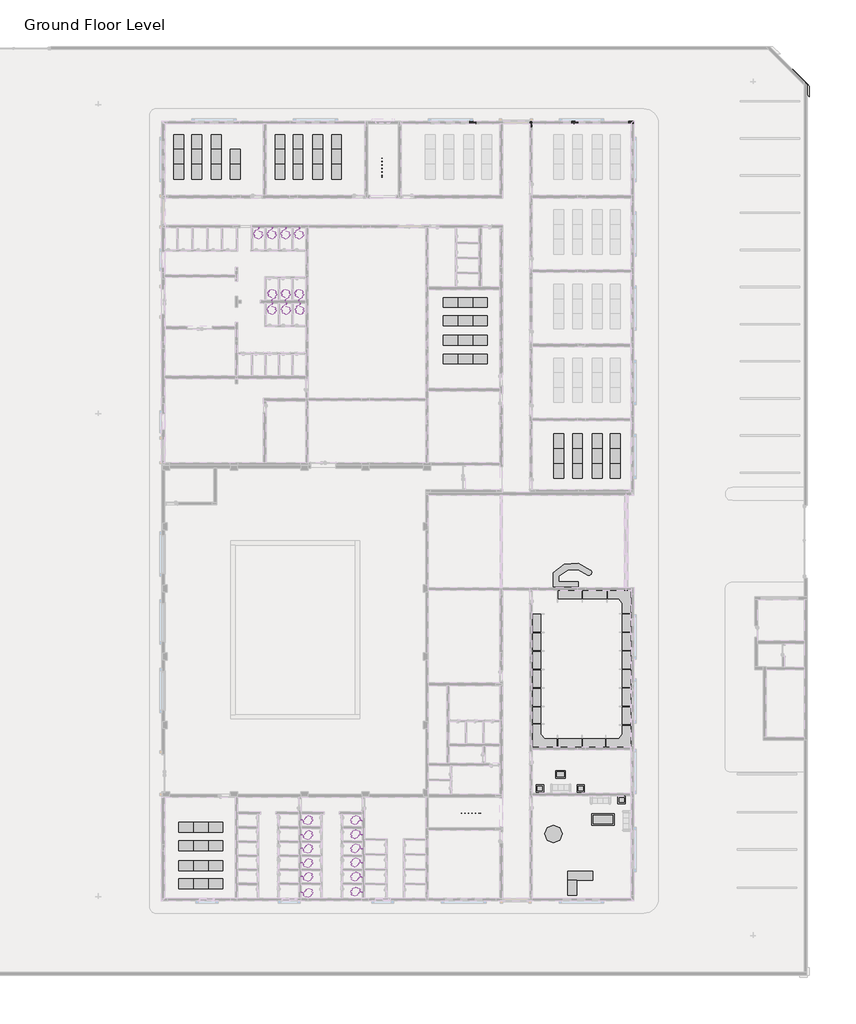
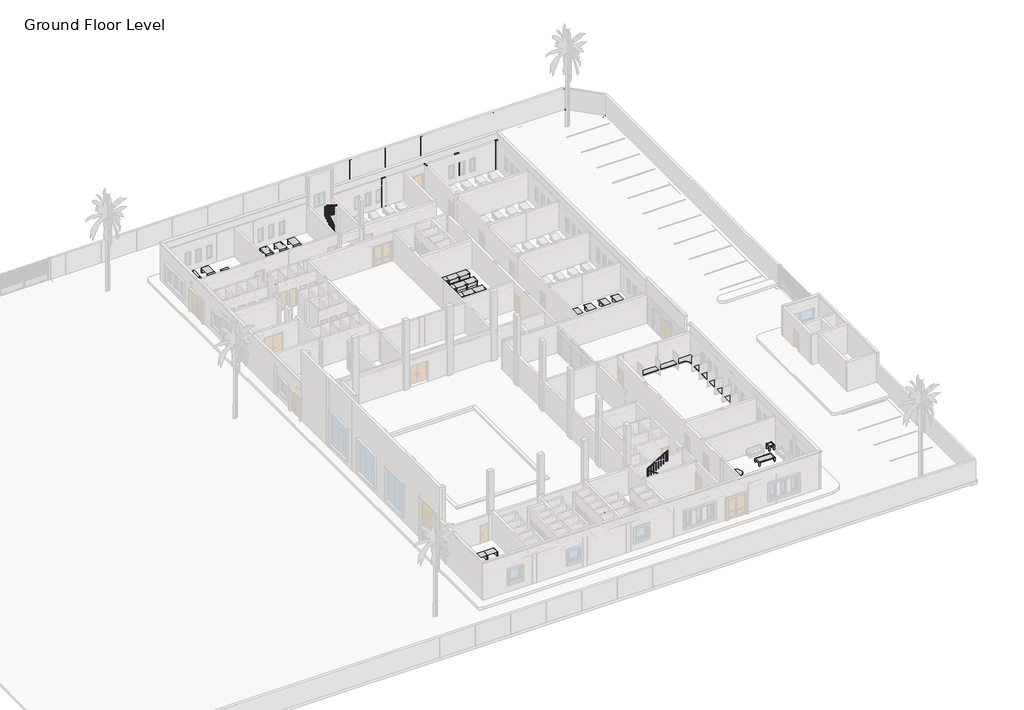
# One storey, part 21 of 23: 68 furniture elements, 22 flow terminals, 14 columns, 8 beams, 4 slabs, 2 railings, 1 footing.
"""IFC4 building model written with IfcOpenShell, lengths in millimetres."""

from ifc_helpers import new_model, si_unit, frame, origin, place, context, project, spatial, polyline, outline, extrude, faceted_brep, transform, mapped, element, save
from components import concrete_rectangular_c_9a02abf1, shower_shower_096738a5, bar_cabinet_2643_bar_cabinet_2643_6f9020b6, desk_120cm_1200x800_96458f44, furniture_1_furniture_1_e9a6e4ac, m_desk_l_shape_2000_x_2000_cdca6658, table_coffee_2_600_x_600_x_600mm_3ebcfe62, table_coffee_2_800_x_700_x_600mm_039c7049, table_coffee_2_900_x_1800_x_450mm_279d784c, table_dining_w_chairs_1_900mm_diameter_3745d905, railing_1100mm_bf5e9941, railing_1100mm_0a1800b7

model = new_model("IFC4")

# Units and contexts
model_context = context("Model", 3, world=origin())
ifc_project = project(units=[si_unit("LENGTHUNIT", "METRE", prefix="MILLI")], contexts=[model_context])

# Site, building, storey
site = spatial("IfcSite", under=ifc_project)
building = spatial("IfcBuilding", under=site)
storey = spatial("IfcBuildingStorey", under=building, Name="Ground Floor Level", Elevation=900.0)

# Beams
placement = place(None, origin())
element("IfcBeam", 1, ObjectType="Concrete - Rectangular Beam : GB3", at=placement, inside=storey, context=model_context, shape_type="SweptSolid", body=[
    extrude(outline(polyline([(7852.7672395, 21445.2153534), (7852.7672395, 21645.2153534), (11052.7672395, 21645.2153534), (11052.7672395, 21445.2153534), (7852.7672395, 21445.2153534)])), frame((0.0, 0.0, 300.0), z_axis=(0.0, 0.0, 1.0), x_axis=(1.0, 0.0, 0.0)), (0.0, 0.0, 1.0), 300.0),
])
element("IfcBeam", 2, ObjectType="Concrete - Rectangular Beam : GB3", at=placement, inside=storey, context=model_context, shape_type="SweptSolid", body=[
    extrude(outline(polyline([(11552.7672395, 21445.2153534), (11552.7672395, 21645.2153534), (15652.7672395, 21645.2153534), (15652.7672395, 21445.2153534), (11552.7672395, 21445.2153534)])), frame((0.0, 0.0, 300.0), z_axis=(0.0, 0.0, 1.0), x_axis=(1.0, 0.0, 0.0)), (0.0, 0.0, 1.0), 300.0),
])
element("IfcBeam", 3, ObjectType="Concrete - Rectangular Beam : GB4", at=placement, inside=storey, context=model_context, shape_type="SweptSolid", body=[
    extrude(outline(polyline([(2802.7672395, 21645.2153534), (2802.7672395, 21445.2153534), (-2747.2327605, 21445.2153534), (-2747.2327605, 21645.2153534), (2802.7672395, 21645.2153534)])), frame((0.0, 0.0, 300.0), z_axis=(0.0, 0.0, 1.0), x_axis=(1.0, 0.0, 0.0)), (0.0, 0.0, 1.0), 300.0),
])
element("IfcBeam", 4, ObjectType="Concrete - Rectangular Beam : GB4", at=placement, inside=storey, context=model_context, shape_type="SweptSolid", body=[
    extrude(outline(polyline([(16052.7672395, 15645.2153534), (15852.7672395, 15645.2153534), (15852.7672395, 21445.2153534), (16052.7672395, 21445.2153534), (16052.7672395, 15645.2153534)])), frame((0.0, 0.0, 300.0), z_axis=(0.0, 0.0, 1.0), x_axis=(1.0, 0.0, 0.0)), (0.0, 0.0, 1.0), 300.0),
])
element("IfcBeam", 5, ObjectType="Concrete - Rectangular Beam : GB4", at=placement, inside=storey, context=model_context, shape_type="SweptSolid", body=[
    extrude(outline(polyline([(11542.223802, 15645.2153534), (11342.223802, 15645.2153534), (11342.223802, 21445.2153534), (11542.223802, 21445.2153534), (11542.223802, 15645.2153534)])), frame((0.0, 0.0, 300.0), z_axis=(0.0, 0.0, 1.0), x_axis=(1.0, 0.0, 0.0)), (0.0, 0.0, 1.0), 300.0),
])
element("IfcBeam", 6, ObjectType="Concrete - Rectangular Beam : GB4", at=placement, inside=storey, context=model_context, shape_type="SweptSolid", body=[
    extrude(outline(polyline([(7652.7672395, 21145.2153534), (7852.7672395, 21145.2153534), (7852.7672395, 15645.2153534), (7652.7672395, 15645.2153534), (7652.7672395, 21145.2153534)])), frame((0.0, 0.0, 300.0), z_axis=(0.0, 0.0, 1.0), x_axis=(1.0, 0.0, 0.0)), (0.0, 0.0, 1.0), 300.0),
])
element("IfcBeam", 7, ObjectType="Concrete - Rectangular Beam : GB4", at=placement, inside=storey, context=model_context, shape_type="SweptSolid", body=[
    extrude(outline(polyline([(5252.7672395, 21445.2153534), (5452.7672395, 21445.2153534), (5452.7672395, 15645.2153534), (5252.7672395, 15645.2153534), (5252.7672395, 21445.2153534)])), frame((0.0, 0.0, 300.0), z_axis=(0.0, 0.0, 1.0), x_axis=(1.0, 0.0, 0.0)), (0.0, 0.0, 1.0), 300.0),
])
element("IfcBeam", 8, ObjectType="Concrete - Rectangular Beam : GB5", at=placement, inside=storey, context=model_context, shape_type="Brep", body=[
    faceted_brep([(3302.7672395, 21445.2153534, 300.0), (5252.7672395, 21445.2153534, 300.0), (5452.7672395, 21445.2153534, 300.0), (7652.7672395, 21445.2153534, 300.0), (7652.7672395, 21445.2153534, 600.0), (5452.7672395, 21445.2153534, 600.0), (5252.7672395, 21445.2153534, 600.0), (3302.7672395, 21445.2153534, 600.0), (3302.7672395, 21645.2153534, 300.0), (7652.7672395, 21645.2153534, 300.0), (3302.7672395, 21645.2153534, 600.0), (7652.7672395, 21645.2153534, 600.0)], [[[0, 1, 2, 3, 4, 5, 6, 7]], [[0, 8, 9, 3, 2, 1]], [[9, 8, 10, 11]], [[8, 0, 7, 10]], [[3, 9, 11, 4]], [[7, 6, 5, 4, 11, 10]]]),
])

# Columns
element("IfcColumn", 9, ObjectType="Concrete Rectangular : C", at=placement, inside=storey, context=model_context, shape_type="SweptSolid", body=[
    extrude(outline(polyline([(2652.6555015, 27650.6767253), (2852.6555015, 27650.6767253), (2852.6555015, 27450.6767253), (2652.6555015, 27450.6767253), (2652.6555015, 27650.6767253)])), frame((0.0, 0.0, 600.0), z_axis=(0.0, 0.0, 1.0), x_axis=(1.0, 0.0, 0.0)), (0.0, 0.0, 1.0), 2450.0),
])
element("IfcColumn", 10, ObjectType="Concrete Rectangular : C", at=placement, inside=storey, context=model_context, shape_type="SweptSolid", body=[
    extrude(outline(polyline([(6652.6555015, 27650.6767253), (6852.6555015, 27650.6767253), (6852.6555015, 27450.6767253), (6652.6555015, 27450.6767253), (6652.6555015, 27650.6767253)])), frame((0.0, 0.0, 600.0), z_axis=(0.0, 0.0, 1.0), x_axis=(1.0, 0.0, 0.0)), (0.0, 0.0, 1.0), 2450.0),
])
element("IfcColumn", 11, ObjectType="Concrete Rectangular : C", at=placement, inside=storey, context=model_context, shape_type="SweptSolid", body=[
    extrude(outline(polyline([(10652.6555015, 27650.6767253), (10852.6555015, 27650.6767253), (10852.6555015, 27450.6767253), (10652.6555015, 27450.6767253), (10652.6555015, 27650.6767253)])), frame((0.0, 0.0, 600.0), z_axis=(0.0, 0.0, 1.0), x_axis=(1.0, 0.0, 0.0)), (0.0, 0.0, 1.0), 2450.0),
])
element("IfcColumn", 12, ObjectType="Concrete Rectangular : C", at=placement, inside=storey, context=model_context, shape_type="SweptSolid", body=[
    extrude(outline(polyline([(14652.6555015, 27650.6767253), (14852.6555015, 27650.6767253), (14852.6555015, 27450.6767253), (14652.6555015, 27450.6767253), (14652.6555015, 27650.6767253)])), frame((0.0, 0.0, 600.0), z_axis=(0.0, 0.0, 1.0), x_axis=(1.0, 0.0, 0.0)), (0.0, 0.0, 1.0), 2450.0),
])
element("IfcColumn", 13, ObjectType="Concrete Rectangular : C", at=placement, inside=storey, context=model_context, shape_type="SweptSolid", body=[
    extrude(outline(polyline([(18652.6555015, 27650.6767253), (18852.6555015, 27650.6767253), (18852.6555015, 27450.6767253), (18652.6555015, 27450.6767253), (18652.6555015, 27650.6767253)])), frame((0.0, 0.0, 600.0), z_axis=(0.0, 0.0, 1.0), x_axis=(1.0, 0.0, 0.0)), (0.0, 0.0, 1.0), 2450.0),
])
element("IfcColumn", 14, ObjectType="Concrete Rectangular : C", at=placement, inside=storey, context=model_context, shape_type="SweptSolid", body=[
    extrude(outline(polyline([(22652.6555015, 27650.6767253), (22852.6555015, 27650.6767253), (22852.6555015, 27450.6767253), (22652.6555015, 27450.6767253), (22652.6555015, 27650.6767253)])), frame((0.0, 0.0, 600.0), z_axis=(0.0, 0.0, 1.0), x_axis=(1.0, 0.0, 0.0)), (0.0, 0.0, 1.0), 2450.0),
])
element("IfcColumn", 15, ObjectType="Concrete Rectangular : C", at=placement, inside=storey, context=model_context, shape_type="SweptSolid", body=[
    extrude(outline(polyline([(26652.6555015, 27650.6767253), (26852.6555015, 27650.6767253), (26852.6555015, 27450.6767253), (26652.6555015, 27450.6767253), (26652.6555015, 27650.6767253)])), frame((0.0, 0.0, 600.0), z_axis=(0.0, 0.0, 1.0), x_axis=(1.0, 0.0, 0.0)), (0.0, 0.0, 1.0), 2450.0),
])
concrete_rectangular_c_shape = concrete_rectangular_c_9a02abf1(model_context)
element("IfcColumn", 16, ObjectType="Concrete Rectangular : C", at=placement, inside=storey, context=model_context, shape_type="MappedRepresentation", body=[
    mapped(concrete_rectangular_c_shape, transform((29943.9253387, 24439.4068881, 0.0), x_axis=(-1.0, 0.0, 0.0), y_axis=(0.0, -1.0, 0.0), z_axis=(0.0, 0.0, 1.0))),
])
element("IfcColumn", 17, ObjectType="Concrete Rectangular : C", at=placement, inside=storey, context=model_context, shape_type="MappedRepresentation", body=[
    mapped(concrete_rectangular_c_shape, transform((29943.9253387, 20439.4068881, 0.0), x_axis=(-1.0, 0.0, 0.0), y_axis=(0.0, -1.0, 0.0), z_axis=(0.0, 0.0, 1.0))),
])
element("IfcColumn", 18, ObjectType="Concrete Rectangular : C", at=placement, inside=storey, context=model_context, shape_type="MappedRepresentation", body=[
    mapped(concrete_rectangular_c_shape, transform((29943.9253387, 16439.4068881, 0.0), x_axis=(-1.0, 0.0, 0.0), y_axis=(0.0, -1.0, 0.0), z_axis=(0.0, 0.0, 1.0))),
])
element("IfcColumn", 19, ObjectType="Concrete Rectangular : C1", at=placement, inside=storey, context=model_context, shape_type="Brep", body=[
    faceted_brep([(15652.7672395, 21645.2153534, -300.0), (16052.7672395, 21645.2153534, -300.0), (16052.7672395, 21445.2153534, -300.0), (15652.7672395, 21445.2153534, -300.0), (15652.7672395, 21645.2153534, 4400.0), (16052.7672395, 21645.2153534, 4400.0), (16052.7672395, 21645.2153534, 900.0), (15652.7672395, 21645.2153534, 900.0), (16052.7672395, 21445.2153534, 4400.0), (16052.7672395, 21445.2153534, 900.0), (15652.7672395, 21445.2153534, 4400.0), (15652.7672395, 21445.2153534, 1000.0), (15652.7672395, 21445.2153534, 900.0)], [[[0, 1, 2, 3]], [[4, 5, 6, 1, 0, 7]], [[5, 8, 9, 2, 1, 6]], [[8, 10, 11, 12, 3, 2, 9]], [[10, 4, 7, 0, 3, 12, 11]], [[4, 10, 8, 5]]]),
])
element("IfcColumn", 20, ObjectType="Concrete Rectangular : C2", at=placement, inside=storey, context=model_context, shape_type="Brep", body=[
    faceted_brep([(3302.7672395, 21445.2153534, -300.0), (2802.7672395, 21445.2153534, -300.0), (2802.7672395, 21645.2153534, -300.0), (3302.7672395, 21645.2153534, -300.0), (3302.7672395, 21445.2153534, 4400.0), (2802.7672395, 21445.2153534, 4400.0), (2802.7672395, 21445.2153534, 1000.0), (2802.7672395, 21445.2153534, 900.0), (3302.7672395, 21445.2153534, 900.0), (3302.7672395, 21445.2153534, 1000.0), (2802.7672395, 21645.2153534, 4400.0), (2802.7672395, 21645.2153534, 900.0), (3302.7672395, 21645.2153534, 4400.0), (3302.7672395, 21645.2153534, 900.0)], [[[0, 1, 2, 3]], [[4, 5, 6, 7, 1, 0, 8, 9]], [[5, 10, 11, 2, 1, 7, 6]], [[10, 12, 13, 3, 2, 11]], [[12, 4, 9, 8, 0, 3, 13]], [[4, 12, 10, 5]]]),
])
element("IfcColumn", 21, ObjectType="Concrete Rectangular : C2", at=placement, inside=storey, context=model_context, shape_type="Brep", body=[
    faceted_brep([(7852.7672395, 21645.2153534, -300.0), (7852.7672395, 21145.2153534, -300.0), (7652.7672395, 21145.2153534, -300.0), (7652.7672395, 21645.2153534, -300.0), (7852.7672395, 21645.2153534, 4400.0), (7852.7672395, 21435.2153534, 4400.0), (7852.7672395, 21145.2153534, 4400.0), (7852.7672395, 21145.2153534, 1000.0), (7852.7672395, 21145.2153534, 900.0), (7852.7672395, 21645.2153534, 900.0), (7652.7672395, 21145.2153534, 4400.0), (7652.7672395, 21145.2153534, 1000.0), (7652.7672395, 21145.2153534, 900.0), (7652.7672395, 21435.2153534, 4400.0), (7652.7672395, 21645.2153534, 4400.0), (7652.7672395, 21645.2153534, 900.0)], [[[0, 1, 2, 3]], [[4, 5, 6, 7, 8, 1, 0, 9]], [[6, 10, 11, 12, 2, 1, 8, 7]], [[10, 13, 14, 15, 3, 2, 12, 11]], [[14, 4, 9, 0, 3, 15]], [[4, 14, 13, 10, 6, 5]]]),
])
element("IfcColumn", 22, ObjectType="Concrete Rectangular : C2", at=placement, inside=storey, context=model_context, shape_type="Brep", body=[
    faceted_brep([(11052.7672395, 21645.2153534, -300.0), (11552.7672395, 21645.2153534, -300.0), (11552.7672395, 21445.2153534, -300.0), (11052.7672395, 21445.2153534, -300.0), (11052.7672395, 21645.2153534, 4400.0), (11552.7672395, 21645.2153534, 4400.0), (11552.7672395, 21645.2153534, 900.0), (11052.7672395, 21645.2153534, 900.0), (11552.7672395, 21445.2153534, 4400.0), (11552.7672395, 21445.2153534, 1000.0), (11552.7672395, 21445.2153534, 900.0), (11052.7672395, 21445.2153534, 4400.0), (11052.7672395, 21445.2153534, 1000.0), (11052.7672395, 21445.2153534, 900.0)], [[[0, 1, 2, 3]], [[4, 5, 6, 1, 0, 7]], [[5, 8, 9, 10, 2, 1, 6]], [[8, 11, 12, 13, 3, 2, 10, 9]], [[11, 4, 7, 0, 3, 13, 12]], [[4, 11, 8, 5]]]),
])

# Flow terminals
shower_shower_shape = shower_shower_096738a5(model_context)
element("IfcFlowTerminal", 23, ObjectType="Shower : Shower", at=placement, inside=storey, context=model_context, shape_type="MappedRepresentation", body=[
    mapped(shower_shower_shape, transform((-10283.9007605, -34799.6019973, 3200.0), x_axis=(-1.0, 0.0, 0.0), y_axis=(0.0, -1.0, 0.0), z_axis=(0.0, 0.0, 1.0))),
])
element("IfcFlowTerminal", 24, ObjectType="Shower : Shower", at=placement, inside=storey, context=model_context, shape_type="MappedRepresentation", body=[
    mapped(shower_shower_shape, transform((-10283.9007605, -35999.6019973, 3200.0), x_axis=(-1.0, 0.0, 0.0), y_axis=(0.0, -1.0, 0.0), z_axis=(0.0, 0.0, 1.0))),
])
element("IfcFlowTerminal", 25, ObjectType="Shower : Shower", at=placement, inside=storey, context=model_context, shape_type="MappedRepresentation", body=[
    mapped(shower_shower_shape, transform((-10283.9007605, -37099.6019973, 3200.0), x_axis=(-1.0, 0.0, 0.0), y_axis=(0.0, -1.0, 0.0), z_axis=(0.0, 0.0, 1.0))),
])
element("IfcFlowTerminal", 26, ObjectType="Shower : Shower", at=placement, inside=storey, context=model_context, shape_type="MappedRepresentation", body=[
    mapped(shower_shower_shape, transform((-10283.9007605, -38269.7846466, 3200.0), x_axis=(-1.0, 0.0, 0.0), y_axis=(0.0, -1.0, 0.0), z_axis=(0.0, 0.0, 1.0))),
])
element("IfcFlowTerminal", 27, ObjectType="Shower : Shower", at=placement, inside=storey, context=model_context, shape_type="MappedRepresentation", body=[
    mapped(shower_shower_shape, transform((-10283.9007605, -39369.7846466, 3200.0), x_axis=(-1.0, 0.0, 0.0), y_axis=(0.0, -1.0, 0.0), z_axis=(0.0, 0.0, 1.0))),
])
element("IfcFlowTerminal", 28, ObjectType="Shower : Shower", at=placement, inside=storey, context=model_context, shape_type="MappedRepresentation", body=[
    mapped(shower_shower_shape, transform((-10283.9007605, -40669.7846466, 3200.0), x_axis=(-1.0, 0.0, 0.0), y_axis=(0.0, -1.0, 0.0), z_axis=(0.0, 0.0, 1.0))),
])
element("IfcFlowTerminal", 29, ObjectType="Shower : Shower", at=placement, inside=storey, context=model_context, shape_type="MappedRepresentation", body=[
    mapped(shower_shower_shape, transform((-6390.5687605, -34864.6926466, 3200.0), x_axis=(1.0, 0.0, 0.0), y_axis=(0.0, 1.0, 0.0), z_axis=(0.0, 0.0, 1.0))),
])
element("IfcFlowTerminal", 30, ObjectType="Shower : Shower", at=placement, inside=storey, context=model_context, shape_type="MappedRepresentation", body=[
    mapped(shower_shower_shape, transform((-6390.5687605, -36012.7835466, 3200.0), x_axis=(1.0, 0.0, 0.0), y_axis=(0.0, 1.0, 0.0), z_axis=(0.0, 0.0, 1.0))),
])
element("IfcFlowTerminal", 31, ObjectType="Shower : Shower", at=placement, inside=storey, context=model_context, shape_type="MappedRepresentation", body=[
    mapped(shower_shower_shape, transform((-6390.5687605, -37152.7833366, 3200.0), x_axis=(1.0, 0.0, 0.0), y_axis=(0.0, 1.0, 0.0), z_axis=(0.0, 0.0, 1.0))),
])
element("IfcFlowTerminal", 32, ObjectType="Shower : Shower", at=placement, inside=storey, context=model_context, shape_type="MappedRepresentation", body=[
    mapped(shower_shower_shape, transform((-6390.5687605, -38292.7833266, 3200.0), x_axis=(1.0, 0.0, 0.0), y_axis=(0.0, 1.0, 0.0), z_axis=(0.0, 0.0, 1.0))),
])
element("IfcFlowTerminal", 33, ObjectType="Shower : Shower", at=placement, inside=storey, context=model_context, shape_type="MappedRepresentation", body=[
    mapped(shower_shower_shape, transform((-6390.5687605, -39432.7929166, 3200.0), x_axis=(1.0, 0.0, 0.0), y_axis=(0.0, 1.0, 0.0), z_axis=(0.0, 0.0, 1.0))),
])
element("IfcFlowTerminal", 34, ObjectType="Shower : Shower", at=placement, inside=storey, context=model_context, shape_type="MappedRepresentation", body=[
    mapped(shower_shower_shape, transform((-6390.5687605, -40654.7846466, 3200.0), x_axis=(1.0, 0.0, 0.0), y_axis=(0.0, 1.0, 0.0), z_axis=(0.0, 0.0, 1.0))),
])
element("IfcFlowTerminal", 35, ObjectType="Shower : Shower", at=placement, inside=storey, context=model_context, shape_type="MappedRepresentation", body=[
    mapped(shower_shower_shape, transform((-14247.2327605, 12535.2153534, 3200.0), x_axis=(0.0, 1.0, 0.0), y_axis=(-1.0, 0.0, 0.0), z_axis=(0.0, 0.0, 1.0))),
])
element("IfcFlowTerminal", 36, ObjectType="Shower : Shower", at=placement, inside=storey, context=model_context, shape_type="MappedRepresentation", body=[
    mapped(shower_shower_shape, transform((-13147.2327605, 12535.2153534, 3200.0), x_axis=(0.0, 1.0, 0.0), y_axis=(-1.0, 0.0, 0.0), z_axis=(0.0, 0.0, 1.0))),
])
element("IfcFlowTerminal", 37, ObjectType="Shower : Shower", at=placement, inside=storey, context=model_context, shape_type="MappedRepresentation", body=[
    mapped(shower_shower_shape, transform((-12047.2327605, 12535.2153534, 3200.0), x_axis=(0.0, 1.0, 0.0), y_axis=(-1.0, 0.0, 0.0), z_axis=(0.0, 0.0, 1.0))),
])
element("IfcFlowTerminal", 38, ObjectType="Shower : Shower", at=placement, inside=storey, context=model_context, shape_type="MappedRepresentation", body=[
    mapped(shower_shower_shape, transform((-10947.2327605, 12535.2153534, 3200.0), x_axis=(0.0, 1.0, 0.0), y_axis=(-1.0, 0.0, 0.0), z_axis=(0.0, 0.0, 1.0))),
])
element("IfcFlowTerminal", 39, ObjectType="Shower : Shower", at=placement, inside=storey, context=model_context, shape_type="MappedRepresentation", body=[
    mapped(shower_shower_shape, transform((-13187.2327605, 7645.2153534, 3200.0), x_axis=(0.0, -1.0, 0.0), y_axis=(1.0, 0.0, 0.0), z_axis=(0.0, 0.0, 1.0))),
])
element("IfcFlowTerminal", 40, ObjectType="Shower : Shower", at=placement, inside=storey, context=model_context, shape_type="MappedRepresentation", body=[
    mapped(shower_shower_shape, transform((-12097.2327605, 7645.2153534, 3200.0), x_axis=(0.0, -1.0000000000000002, 0.0), y_axis=(1.0000000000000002, 0.0, 0.0), z_axis=(0.0, 0.0, 1.0))),
])
element("IfcFlowTerminal", 41, ObjectType="Shower : Shower", at=placement, inside=storey, context=model_context, shape_type="MappedRepresentation", body=[
    mapped(shower_shower_shape, transform((-11007.2327605, 7645.2153534, 3200.0), x_axis=(0.0, -1.0000000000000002, 0.0), y_axis=(1.0000000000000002, 0.0, 0.0), z_axis=(0.0, 0.0, 1.0))),
])
element("IfcFlowTerminal", 42, ObjectType="Shower : Shower", at=placement, inside=storey, context=model_context, shape_type="MappedRepresentation", body=[
    mapped(shower_shower_shape, transform((-10887.2327605, 6425.2153534, 3200.0), x_axis=(0.0, 1.0000000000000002, 0.0), y_axis=(-1.0000000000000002, 0.0, 0.0), z_axis=(0.0, 0.0, 1.0))),
])
element("IfcFlowTerminal", 43, ObjectType="Shower : Shower", at=placement, inside=storey, context=model_context, shape_type="MappedRepresentation", body=[
    mapped(shower_shower_shape, transform((-12007.2327605, 6435.2153534, 3200.0), x_axis=(0.0, 1.0, 0.0), y_axis=(-1.0, 0.0, 0.0), z_axis=(0.0, 0.0, 1.0))),
])
element("IfcFlowTerminal", 44, ObjectType="Shower : Shower", at=placement, inside=storey, context=model_context, shape_type="MappedRepresentation", body=[
    mapped(shower_shower_shape, transform((-13147.2327605, 6435.2153534, 3200.0), x_axis=(0.0, 1.0, 0.0), y_axis=(-1.0, 0.0, 0.0), z_axis=(0.0, 0.0, 1.0))),
])

# Footing
element("IfcFooting", 45, ObjectType="Bearing Footing - 600 x 300", at=placement, inside=storey, context=model_context, shape_type="Brep", body=[
    faceted_brep([(30242.7672395, 23620.8293516, 600.0), (30242.7672395, 24469.357489, 600.0), (30062.7672395, 24649.357489, 600.0), (30062.7672395, 23800.8293516, 600.0), (27036.9093751, 27675.2153534, 600.0), (26788.3812377, 27075.2153534, 600.0), (29462.7672395, 24400.8293516, 600.0), (27636.9093751, 27075.2153534, 600.0), (30242.7672395, 24469.357489, 300.0), (30062.7672395, 24649.357489, 300.0), (27636.9093751, 27075.2153534, 300.0), (27036.9093751, 27675.2153534, 300.0), (30242.7672395, 23620.8293516, 300.0), (30062.7672395, 23800.8293516, 300.0), (26788.3812377, 27075.2153534, 300.0), (29462.7672395, 24400.8293516, 300.0)], [[[0, 1, 2, 3]], [[4, 5, 6, 2, 7]], [[1, 8, 9, 10, 11, 4, 7, 2]], [[8, 12, 13, 9]], [[14, 11, 10, 9, 15]], [[12, 0, 3, 13]], [[5, 14, 15, 6]], [[1, 0, 12, 8]], [[5, 4, 11, 14]], [[2, 9, 13, 3]], [[9, 2, 6, 15]]]),
])

# Furniture
bar_cabinet_2643_bar_cabinet_2643_shape = bar_cabinet_2643_bar_cabinet_2643_6f9020b6(model_context)
element("IfcFurniture", 46, ObjectType="Bar_Cabinet_2643 : Bar_Cabinet_2643", at=placement, inside=storey, context=model_context, shape_type="MappedRepresentation", body=[
    mapped(bar_cabinet_2643_bar_cabinet_2643_shape, transform((10473.066913, -15584.7846466, 1000.0), x_axis=(1.0, 0.0, 0.0), y_axis=(0.0, 1.0, 0.0), z_axis=(0.0, 0.0, 1.0))),
])
desk_120cm_1200x800_shape = desk_120cm_1200x800_96458f44(model_context)
element("IfcFurniture", 47, ObjectType="Desk -120cm : 1200x800", at=placement, inside=storey, context=model_context, shape_type="MappedRepresentation", body=[
    mapped(desk_120cm_1200x800_shape, transform((-16549.5512159, 18163.9275564, 900.0), x_axis=(1.0, 0.0, 0.0), y_axis=(0.0, 1.0, 0.0), z_axis=(0.0, 0.0, 1.0))),
])
element("IfcFurniture", 48, ObjectType="Desk -120cm : 1200x800", at=placement, inside=storey, context=model_context, shape_type="MappedRepresentation", body=[
    mapped(desk_120cm_1200x800_shape, transform((-16549.5512159, 16968.9275564, 900.0), x_axis=(1.0, 0.0, 0.0), y_axis=(0.0, 1.0, 0.0), z_axis=(0.0, 0.0, 1.0))),
])
element("IfcFurniture", 49, ObjectType="Desk -120cm : 1200x800", at=placement, inside=storey, context=model_context, shape_type="MappedRepresentation", body=[
    mapped(desk_120cm_1200x800_shape, transform((-18057.2327605, 19358.9275564, 900.0), x_axis=(1.0, 0.0, 0.0), y_axis=(0.0, 1.0, 0.0), z_axis=(0.0, 0.0, 1.0))),
])
element("IfcFurniture", 50, ObjectType="Desk -120cm : 1200x800", at=placement, inside=storey, context=model_context, shape_type="MappedRepresentation", body=[
    mapped(desk_120cm_1200x800_shape, transform((-18057.2327605, 18163.9275564, 900.0), x_axis=(1.0, 0.0, 0.0), y_axis=(0.0, 1.0, 0.0), z_axis=(0.0, 0.0, 1.0))),
])
element("IfcFurniture", 51, ObjectType="Desk -120cm : 1200x800", at=placement, inside=storey, context=model_context, shape_type="MappedRepresentation", body=[
    mapped(desk_120cm_1200x800_shape, transform((-18057.2327605, 16968.9275564, 900.0), x_axis=(1.0, 0.0, 0.0), y_axis=(0.0, 1.0, 0.0), z_axis=(0.0, 0.0, 1.0))),
])
element("IfcFurniture", 52, ObjectType="Desk -120cm : 1200x800", at=placement, inside=storey, context=model_context, shape_type="MappedRepresentation", body=[
    mapped(desk_120cm_1200x800_shape, transform((-19657.2327605, 19358.9275564, 900.0), x_axis=(1.0, 0.0, 0.0), y_axis=(0.0, 1.0, 0.0), z_axis=(0.0, 0.0, 1.0))),
])
element("IfcFurniture", 53, ObjectType="Desk -120cm : 1200x800", at=placement, inside=storey, context=model_context, shape_type="MappedRepresentation", body=[
    mapped(desk_120cm_1200x800_shape, transform((-19657.2327605, 18163.9275564, 900.0), x_axis=(1.0, 0.0, 0.0), y_axis=(0.0, 1.0, 0.0), z_axis=(0.0, 0.0, 1.0))),
])
element("IfcFurniture", 54, ObjectType="Desk -120cm : 1200x800", at=placement, inside=storey, context=model_context, shape_type="MappedRepresentation", body=[
    mapped(desk_120cm_1200x800_shape, transform((-19657.2327605, 16968.9275564, 900.0), x_axis=(1.0, 0.0, 0.0), y_axis=(0.0, 1.0, 0.0), z_axis=(0.0, 0.0, 1.0))),
])
element("IfcFurniture", 55, ObjectType="Desk -120cm : 1200x800", at=placement, inside=storey, context=model_context, shape_type="MappedRepresentation", body=[
    mapped(desk_120cm_1200x800_shape, transform((-21113.8455574, 19358.9275564, 900.0), x_axis=(1.0, 0.0, 0.0), y_axis=(0.0, 1.0, 0.0), z_axis=(0.0, 0.0, 1.0))),
])
element("IfcFurniture", 56, ObjectType="Desk -120cm : 1200x800", at=placement, inside=storey, context=model_context, shape_type="MappedRepresentation", body=[
    mapped(desk_120cm_1200x800_shape, transform((-21113.8455574, 18163.9275564, 900.0), x_axis=(1.0, 0.0, 0.0), y_axis=(0.0, 1.0, 0.0), z_axis=(0.0, 0.0, 1.0))),
])
element("IfcFurniture", 57, ObjectType="Desk -120cm : 1200x800", at=placement, inside=storey, context=model_context, shape_type="MappedRepresentation", body=[
    mapped(desk_120cm_1200x800_shape, transform((-21113.8455574, 16968.9275564, 900.0), x_axis=(1.0, 0.0, 0.0), y_axis=(0.0, 1.0, 0.0), z_axis=(0.0, 0.0, 1.0))),
])
element("IfcFurniture", 58, ObjectType="Desk -120cm : 1200x800", at=placement, inside=storey, context=model_context, shape_type="MappedRepresentation", body=[
    mapped(desk_120cm_1200x800_shape, transform((-8359.5512159, 19358.9275564, 900.0), x_axis=(1.0, 0.0, 0.0), y_axis=(0.0, 1.0, 0.0), z_axis=(0.0, 0.0, 1.0))),
])
element("IfcFurniture", 59, ObjectType="Desk -120cm : 1200x800", at=placement, inside=storey, context=model_context, shape_type="MappedRepresentation", body=[
    mapped(desk_120cm_1200x800_shape, transform((-8359.5512159, 18163.9275564, 900.0), x_axis=(1.0, 0.0, 0.0), y_axis=(0.0, 1.0, 0.0), z_axis=(0.0, 0.0, 1.0))),
])
element("IfcFurniture", 60, ObjectType="Desk -120cm : 1200x800", at=placement, inside=storey, context=model_context, shape_type="MappedRepresentation", body=[
    mapped(desk_120cm_1200x800_shape, transform((-8359.5512159, 16968.9275564, 900.0), x_axis=(1.0, 0.0, 0.0), y_axis=(0.0, 1.0, 0.0), z_axis=(0.0, 0.0, 1.0))),
])
element("IfcFurniture", 61, ObjectType="Desk -120cm : 1200x800", at=placement, inside=storey, context=model_context, shape_type="MappedRepresentation", body=[
    mapped(desk_120cm_1200x800_shape, transform((-9867.2327605, 19358.9275564, 900.0), x_axis=(1.0, 0.0, 0.0), y_axis=(0.0, 1.0, 0.0), z_axis=(0.0, 0.0, 1.0))),
])
element("IfcFurniture", 62, ObjectType="Desk -120cm : 1200x800", at=placement, inside=storey, context=model_context, shape_type="MappedRepresentation", body=[
    mapped(desk_120cm_1200x800_shape, transform((-9867.2327605, 18163.9275564, 900.0), x_axis=(1.0, 0.0, 0.0), y_axis=(0.0, 1.0, 0.0), z_axis=(0.0, 0.0, 1.0))),
])
element("IfcFurniture", 63, ObjectType="Desk -120cm : 1200x800", at=placement, inside=storey, context=model_context, shape_type="MappedRepresentation", body=[
    mapped(desk_120cm_1200x800_shape, transform((-9867.2327605, 16968.9275564, 900.0), x_axis=(1.0, 0.0, 0.0), y_axis=(0.0, 1.0, 0.0), z_axis=(0.0, 0.0, 1.0))),
])
element("IfcFurniture", 64, ObjectType="Desk -120cm : 1200x800", at=placement, inside=storey, context=model_context, shape_type="MappedRepresentation", body=[
    mapped(desk_120cm_1200x800_shape, transform((-11467.2327605, 19358.9275564, 900.0), x_axis=(1.0, 0.0, 0.0), y_axis=(0.0, 1.0, 0.0), z_axis=(0.0, 0.0, 1.0))),
])
element("IfcFurniture", 65, ObjectType="Desk -120cm : 1200x800", at=placement, inside=storey, context=model_context, shape_type="MappedRepresentation", body=[
    mapped(desk_120cm_1200x800_shape, transform((-11467.2327605, 18163.9275564, 900.0), x_axis=(1.0, 0.0, 0.0), y_axis=(0.0, 1.0, 0.0), z_axis=(0.0, 0.0, 1.0))),
])
element("IfcFurniture", 66, ObjectType="Desk -120cm : 1200x800", at=placement, inside=storey, context=model_context, shape_type="MappedRepresentation", body=[
    mapped(desk_120cm_1200x800_shape, transform((-11467.2327605, 16968.9275564, 900.0), x_axis=(1.0, 0.0, 0.0), y_axis=(0.0, 1.0, 0.0), z_axis=(0.0, 0.0, 1.0))),
])
element("IfcFurniture", 67, ObjectType="Desk -120cm : 1200x800", at=placement, inside=storey, context=model_context, shape_type="MappedRepresentation", body=[
    mapped(desk_120cm_1200x800_shape, transform((-12923.8455574, 19358.9275564, 900.0), x_axis=(1.0, 0.0, 0.0), y_axis=(0.0, 1.0, 0.0), z_axis=(0.0, 0.0, 1.0))),
])
element("IfcFurniture", 68, ObjectType="Desk -120cm : 1200x800", at=placement, inside=storey, context=model_context, shape_type="MappedRepresentation", body=[
    mapped(desk_120cm_1200x800_shape, transform((-12923.8455574, 18163.9275564, 900.0), x_axis=(1.0, 0.0, 0.0), y_axis=(0.0, 1.0, 0.0), z_axis=(0.0, 0.0, 1.0))),
])
element("IfcFurniture", 69, ObjectType="Desk -120cm : 1200x800", at=placement, inside=storey, context=model_context, shape_type="MappedRepresentation", body=[
    mapped(desk_120cm_1200x800_shape, transform((-12923.8455574, 16968.9275564, 900.0), x_axis=(1.0, 0.0, 0.0), y_axis=(0.0, 1.0, 0.0), z_axis=(0.0, 0.0, 1.0))),
])
element("IfcFurniture", 70, ObjectType="Desk -120cm : 1200x800", at=placement, inside=storey, context=model_context, shape_type="MappedRepresentation", body=[
    mapped(desk_120cm_1200x800_shape, transform((10410.0766935, -6016.7625054, 900.0), x_axis=(-1.0, 0.0, 0.0), y_axis=(0.0, -1.0, 0.0), z_axis=(0.0, 0.0, 1.0))),
])
element("IfcFurniture", 71, ObjectType="Desk -120cm : 1200x800", at=placement, inside=storey, context=model_context, shape_type="MappedRepresentation", body=[
    mapped(desk_120cm_1200x800_shape, transform((10410.0766935, -4821.7625054, 900.0), x_axis=(-1.0, 0.0, 0.0), y_axis=(0.0, -1.0, 0.0), z_axis=(0.0, 0.0, 1.0))),
])
element("IfcFurniture", 72, ObjectType="Desk -120cm : 1200x800", at=placement, inside=storey, context=model_context, shape_type="MappedRepresentation", body=[
    mapped(desk_120cm_1200x800_shape, transform((10410.0766935, -3626.7625054, 900.0), x_axis=(-1.0, 0.0, 0.0), y_axis=(0.0, -1.0, 0.0), z_axis=(0.0, 0.0, 1.0))),
])
element("IfcFurniture", 73, ObjectType="Desk -120cm : 1200x800", at=placement, inside=storey, context=model_context, shape_type="MappedRepresentation", body=[
    mapped(desk_120cm_1200x800_shape, transform((11917.7582381, -6016.7625054, 900.0), x_axis=(-1.0, 0.0, 0.0), y_axis=(0.0, -1.0, 0.0), z_axis=(0.0, 0.0, 1.0))),
])
element("IfcFurniture", 74, ObjectType="Desk -120cm : 1200x800", at=placement, inside=storey, context=model_context, shape_type="MappedRepresentation", body=[
    mapped(desk_120cm_1200x800_shape, transform((11917.7582381, -4821.7625054, 900.0), x_axis=(-1.0, 0.0, 0.0), y_axis=(0.0, -1.0, 0.0), z_axis=(0.0, 0.0, 1.0))),
])
element("IfcFurniture", 75, ObjectType="Desk -120cm : 1200x800", at=placement, inside=storey, context=model_context, shape_type="MappedRepresentation", body=[
    mapped(desk_120cm_1200x800_shape, transform((11917.7582381, -3626.7625054, 900.0), x_axis=(-1.0, 0.0, 0.0), y_axis=(0.0, -1.0, 0.0), z_axis=(0.0, 0.0, 1.0))),
])
element("IfcFurniture", 76, ObjectType="Desk -120cm : 1200x800", at=placement, inside=storey, context=model_context, shape_type="MappedRepresentation", body=[
    mapped(desk_120cm_1200x800_shape, transform((13517.7582381, -6016.7625054, 900.0), x_axis=(-1.0, 0.0, 0.0), y_axis=(0.0, -1.0, 0.0), z_axis=(0.0, 0.0, 1.0))),
])
element("IfcFurniture", 77, ObjectType="Desk -120cm : 1200x800", at=placement, inside=storey, context=model_context, shape_type="MappedRepresentation", body=[
    mapped(desk_120cm_1200x800_shape, transform((13517.7582381, -4821.7625054, 900.0), x_axis=(-1.0, 0.0, 0.0), y_axis=(0.0, -1.0, 0.0), z_axis=(0.0, 0.0, 1.0))),
])
element("IfcFurniture", 78, ObjectType="Desk -120cm : 1200x800", at=placement, inside=storey, context=model_context, shape_type="MappedRepresentation", body=[
    mapped(desk_120cm_1200x800_shape, transform((13517.7582381, -3626.7625054, 900.0), x_axis=(-1.0, 0.0, 0.0), y_axis=(0.0, -1.0, 0.0), z_axis=(0.0, 0.0, 1.0))),
])
element("IfcFurniture", 79, ObjectType="Desk -120cm : 1200x800", at=placement, inside=storey, context=model_context, shape_type="MappedRepresentation", body=[
    mapped(desk_120cm_1200x800_shape, transform((14974.3710349, -6016.7625054, 900.0), x_axis=(-1.0, 0.0, 0.0), y_axis=(0.0, -1.0, 0.0), z_axis=(0.0, 0.0, 1.0))),
])
element("IfcFurniture", 80, ObjectType="Desk -120cm : 1200x800", at=placement, inside=storey, context=model_context, shape_type="MappedRepresentation", body=[
    mapped(desk_120cm_1200x800_shape, transform((14974.3710349, -4821.7625054, 900.0), x_axis=(-1.0, 0.0, 0.0), y_axis=(0.0, -1.0, 0.0), z_axis=(0.0, 0.0, 1.0))),
])
element("IfcFurniture", 81, ObjectType="Desk -120cm : 1200x800", at=placement, inside=storey, context=model_context, shape_type="MappedRepresentation", body=[
    mapped(desk_120cm_1200x800_shape, transform((14974.3710349, -3626.7625054, 900.0), x_axis=(-1.0, 0.0, 0.0), y_axis=(0.0, -1.0, 0.0), z_axis=(0.0, 0.0, 1.0))),
])
element("IfcFurniture", 82, ObjectType="Desk -120cm : 1200x800", at=placement, inside=storey, context=model_context, shape_type="MappedRepresentation", body=[
    mapped(desk_120cm_1200x800_shape, transform((3046.0604712, 2825.2153534, 900.0), x_axis=(0.0, -1.0, 0.0), y_axis=(1.0, 0.0, 0.0), z_axis=(0.0, 0.0, 1.0))),
])
element("IfcFurniture", 83, ObjectType="Desk -120cm : 1200x800", at=placement, inside=storey, context=model_context, shape_type="MappedRepresentation", body=[
    mapped(desk_120cm_1200x800_shape, transform((1851.0604712, 2825.2153534, 900.0), x_axis=(0.0, -1.0, 0.0), y_axis=(1.0, 0.0, 0.0), z_axis=(0.0, 0.0, 1.0))),
])
element("IfcFurniture", 84, ObjectType="Desk -120cm : 1200x800", at=placement, inside=storey, context=model_context, shape_type="MappedRepresentation", body=[
    mapped(desk_120cm_1200x800_shape, transform((656.0604712, 2825.2153534, 900.0), x_axis=(0.0, -1.0, 0.0), y_axis=(1.0, 0.0, 0.0), z_axis=(0.0, 0.0, 1.0))),
])
element("IfcFurniture", 85, ObjectType="Desk -120cm : 1200x800", at=placement, inside=storey, context=model_context, shape_type="MappedRepresentation", body=[
    mapped(desk_120cm_1200x800_shape, transform((3046.0604712, 4332.896898, 900.0), x_axis=(0.0, -1.0, 0.0), y_axis=(1.0, 0.0, 0.0), z_axis=(0.0, 0.0, 1.0))),
])
element("IfcFurniture", 86, ObjectType="Desk -120cm : 1200x800", at=placement, inside=storey, context=model_context, shape_type="MappedRepresentation", body=[
    mapped(desk_120cm_1200x800_shape, transform((1851.0604712, 4332.896898, 900.0), x_axis=(0.0, -1.0, 0.0), y_axis=(1.0, 0.0, 0.0), z_axis=(0.0, 0.0, 1.0))),
])
element("IfcFurniture", 87, ObjectType="Desk -120cm : 1200x800", at=placement, inside=storey, context=model_context, shape_type="MappedRepresentation", body=[
    mapped(desk_120cm_1200x800_shape, transform((656.0604712, 4332.896898, 900.0), x_axis=(0.0, -1.0, 0.0), y_axis=(1.0, 0.0, 0.0), z_axis=(0.0, 0.0, 1.0))),
])
element("IfcFurniture", 88, ObjectType="Desk -120cm : 1200x800", at=placement, inside=storey, context=model_context, shape_type="MappedRepresentation", body=[
    mapped(desk_120cm_1200x800_shape, transform((3046.0604712, 5932.896898, 900.0), x_axis=(0.0, -1.0, 0.0), y_axis=(1.0, 0.0, 0.0), z_axis=(0.0, 0.0, 1.0))),
])
element("IfcFurniture", 89, ObjectType="Desk -120cm : 1200x800", at=placement, inside=storey, context=model_context, shape_type="MappedRepresentation", body=[
    mapped(desk_120cm_1200x800_shape, transform((1851.0604712, 5932.896898, 900.0), x_axis=(0.0, -1.0, 0.0), y_axis=(1.0, 0.0, 0.0), z_axis=(0.0, 0.0, 1.0))),
])
element("IfcFurniture", 90, ObjectType="Desk -120cm : 1200x800", at=placement, inside=storey, context=model_context, shape_type="MappedRepresentation", body=[
    mapped(desk_120cm_1200x800_shape, transform((656.0604712, 5932.896898, 900.0), x_axis=(0.0, -1.0, 0.0), y_axis=(1.0, 0.0, 0.0), z_axis=(0.0, 0.0, 1.0))),
])
element("IfcFurniture", 91, ObjectType="Desk -120cm : 1200x800", at=placement, inside=storey, context=model_context, shape_type="MappedRepresentation", body=[
    mapped(desk_120cm_1200x800_shape, transform((3046.0604712, 7389.5096949, 900.0), x_axis=(0.0, -1.0, 0.0), y_axis=(1.0, 0.0, 0.0), z_axis=(0.0, 0.0, 1.0))),
])
element("IfcFurniture", 92, ObjectType="Desk -120cm : 1200x800", at=placement, inside=storey, context=model_context, shape_type="MappedRepresentation", body=[
    mapped(desk_120cm_1200x800_shape, transform((1851.0604712, 7389.5096949, 900.0), x_axis=(0.0, -1.0, 0.0), y_axis=(1.0, 0.0, 0.0), z_axis=(0.0, 0.0, 1.0))),
])
element("IfcFurniture", 93, ObjectType="Desk -120cm : 1200x800", at=placement, inside=storey, context=model_context, shape_type="MappedRepresentation", body=[
    mapped(desk_120cm_1200x800_shape, transform((656.0604712, 7389.5096949, 900.0), x_axis=(0.0, -1.0, 0.0), y_axis=(1.0, 0.0, 0.0), z_axis=(0.0, 0.0, 1.0))),
])
element("IfcFurniture", 94, ObjectType="Desk -120cm : 1200x800", at=placement, inside=storey, context=model_context, shape_type="MappedRepresentation", body=[
    mapped(desk_120cm_1200x800_shape, transform((-19527.1220482, -35806.8035032, 900.0), x_axis=(0.0, 1.0, 0.0), y_axis=(-1.0, 0.0, 0.0), z_axis=(0.0, 0.0, 1.0))),
])
element("IfcFurniture", 95, ObjectType="Desk -120cm : 1200x800", at=placement, inside=storey, context=model_context, shape_type="MappedRepresentation", body=[
    mapped(desk_120cm_1200x800_shape, transform((-18332.1220482, -35806.8035032, 900.0), x_axis=(0.0, 1.0, 0.0), y_axis=(-1.0, 0.0, 0.0), z_axis=(0.0, 0.0, 1.0))),
])
element("IfcFurniture", 96, ObjectType="Desk -120cm : 1200x800", at=placement, inside=storey, context=model_context, shape_type="MappedRepresentation", body=[
    mapped(desk_120cm_1200x800_shape, transform((-17137.1220482, -35806.8035032, 900.0), x_axis=(0.0, 1.0, 0.0), y_axis=(-1.0, 0.0, 0.0), z_axis=(0.0, 0.0, 1.0))),
])
element("IfcFurniture", 97, ObjectType="Desk -120cm : 1200x800", at=placement, inside=storey, context=model_context, shape_type="MappedRepresentation", body=[
    mapped(desk_120cm_1200x800_shape, transform((-19527.1220482, -37314.4850478, 900.0), x_axis=(0.0, 1.0, 0.0), y_axis=(-1.0, 0.0, 0.0), z_axis=(0.0, 0.0, 1.0))),
])
element("IfcFurniture", 98, ObjectType="Desk -120cm : 1200x800", at=placement, inside=storey, context=model_context, shape_type="MappedRepresentation", body=[
    mapped(desk_120cm_1200x800_shape, transform((-18332.1220482, -37314.4850478, 900.0), x_axis=(0.0, 1.0, 0.0), y_axis=(-1.0, 0.0, 0.0), z_axis=(0.0, 0.0, 1.0))),
])
element("IfcFurniture", 99, ObjectType="Desk -120cm : 1200x800", at=placement, inside=storey, context=model_context, shape_type="MappedRepresentation", body=[
    mapped(desk_120cm_1200x800_shape, transform((-17137.1220482, -37314.4850478, 900.0), x_axis=(0.0, 1.0, 0.0), y_axis=(-1.0, 0.0, 0.0), z_axis=(0.0, 0.0, 1.0))),
])
element("IfcFurniture", 100, ObjectType="Desk -120cm : 1200x800", at=placement, inside=storey, context=model_context, shape_type="MappedRepresentation", body=[
    mapped(desk_120cm_1200x800_shape, transform((-19527.1220482, -38914.4850478, 900.0), x_axis=(0.0, 1.0, 0.0), y_axis=(-1.0, 0.0, 0.0), z_axis=(0.0, 0.0, 1.0))),
])
element("IfcFurniture", 101, ObjectType="Desk -120cm : 1200x800", at=placement, inside=storey, context=model_context, shape_type="MappedRepresentation", body=[
    mapped(desk_120cm_1200x800_shape, transform((-18332.1220482, -38914.4850478, 900.0), x_axis=(0.0, 1.0, 0.0), y_axis=(-1.0, 0.0, 0.0), z_axis=(0.0, 0.0, 1.0))),
])
element("IfcFurniture", 102, ObjectType="Desk -120cm : 1200x800", at=placement, inside=storey, context=model_context, shape_type="MappedRepresentation", body=[
    mapped(desk_120cm_1200x800_shape, transform((-17137.1220482, -38914.4850478, 900.0), x_axis=(0.0, 1.0, 0.0), y_axis=(-1.0, 0.0, 0.0), z_axis=(0.0, 0.0, 1.0))),
])
element("IfcFurniture", 103, ObjectType="Desk -120cm : 1200x800", at=placement, inside=storey, context=model_context, shape_type="MappedRepresentation", body=[
    mapped(desk_120cm_1200x800_shape, transform((-19527.1220482, -40371.0978446, 900.0), x_axis=(0.0, 1.0, 0.0), y_axis=(-1.0, 0.0, 0.0), z_axis=(0.0, 0.0, 1.0))),
])
element("IfcFurniture", 104, ObjectType="Desk -120cm : 1200x800", at=placement, inside=storey, context=model_context, shape_type="MappedRepresentation", body=[
    mapped(desk_120cm_1200x800_shape, transform((-18332.1220482, -40371.0978446, 900.0), x_axis=(0.0, 1.0, 0.0), y_axis=(-1.0, 0.0, 0.0), z_axis=(0.0, 0.0, 1.0))),
])
element("IfcFurniture", 105, ObjectType="Desk -120cm : 1200x800", at=placement, inside=storey, context=model_context, shape_type="MappedRepresentation", body=[
    mapped(desk_120cm_1200x800_shape, transform((-17137.1220482, -40371.0978446, 900.0), x_axis=(0.0, 1.0, 0.0), y_axis=(-1.0, 0.0, 0.0), z_axis=(0.0, 0.0, 1.0))),
])
furniture_1_furniture_1_shape = furniture_1_furniture_1_e9a6e4ac(model_context)
element("IfcFurniture", 106, ObjectType="Furniture 1 : Furniture 1", at=placement, inside=storey, context=model_context, shape_type="MappedRepresentation", body=[
    mapped(furniture_1_furniture_1_shape, transform((0.0, 0.0, 0.0), x_axis=(1.0, 0.0, 0.0), y_axis=(0.0, 1.0, 0.0), z_axis=(0.0, 0.0, 1.0))),
])
m_desk_l_shape_2000_x_2000_shape = m_desk_l_shape_2000_x_2000_cdca6658(model_context)
element("IfcFurniture", 107, ObjectType="M_Desk L Shape : 2000 x 2000", at=placement, inside=storey, context=model_context, shape_type="MappedRepresentation", body=[
    mapped(m_desk_l_shape_2000_x_2000_shape, transform((11452.7672395, -39694.7846466, 1000.0), x_axis=(-1.0000000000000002, 0.0, 0.0), y_axis=(0.0, -1.0000000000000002, 0.0), z_axis=(0.0, 0.0, 1.0))),
])
table_coffee_2_600_x_600_x_600mm_shape = table_coffee_2_600_x_600_x_600mm_3ebcfe62(model_context)
element("IfcFurniture", 108, ObjectType="Table - Coffee (2) : 600 x 600 x 600mm", at=placement, inside=storey, context=model_context, shape_type="MappedRepresentation", body=[
    mapped(table_coffee_2_600_x_600_x_600mm_shape, transform((15065.190402, -33301.4038096, 1000.0), x_axis=(1.0, 0.0, 0.0), y_axis=(0.0, 1.0, 0.0), z_axis=(0.0, 0.0, 1.0))),
])
element("IfcFurniture", 109, ObjectType="Table - Coffee (2) : 600 x 600 x 600mm", at=placement, inside=storey, context=model_context, shape_type="MappedRepresentation", body=[
    mapped(table_coffee_2_600_x_600_x_600mm_shape, transform((8460.5639504, -32373.1840952, 1000.0), x_axis=(1.0, 0.0, 0.0), y_axis=(0.0, 1.0, 0.0), z_axis=(0.0, 0.0, 1.0))),
])
element("IfcFurniture", 110, ObjectType="Table - Coffee (2) : 600 x 600 x 600mm", at=placement, inside=storey, context=model_context, shape_type="MappedRepresentation", body=[
    mapped(table_coffee_2_600_x_600_x_600mm_shape, transform((11760.5639504, -32373.1840952, 1000.0), x_axis=(1.0, 0.0, 0.0), y_axis=(0.0, 1.0, 0.0), z_axis=(0.0, 0.0, 1.0))),
])
table_coffee_2_800_x_700_x_600mm_shape = table_coffee_2_800_x_700_x_600mm_039c7049(model_context)
element("IfcFurniture", 111, ObjectType="Table - Coffee (2) : 800 x 700 x 600mm", at=placement, inside=storey, context=model_context, shape_type="MappedRepresentation", body=[
    mapped(table_coffee_2_800_x_700_x_600mm_shape, transform((10235.7367063, -31149.0859113, 1000.0), x_axis=(0.0, 1.0, 0.0), y_axis=(-1.0, 0.0, 0.0), z_axis=(0.0, 0.0, 1.0))),
])
table_coffee_2_900_x_1800_x_450mm_shape = table_coffee_2_900_x_1800_x_450mm_279d784c(model_context)
element("IfcFurniture", 112, ObjectType="Table - Coffee (2) : 900 x 1800 x 450mm", at=placement, inside=storey, context=model_context, shape_type="MappedRepresentation", body=[
    mapped(table_coffee_2_900_x_1800_x_450mm_shape, transform((13551.4492135, -34875.1449981, 1000.0), x_axis=(1.0, 0.0, 0.0), y_axis=(0.0, 1.0, 0.0), z_axis=(0.0, 0.0, 1.0))),
])
table_dining_w_chairs_1_900mm_diameter_shape = table_dining_w_chairs_1_900mm_diameter_3745d905(model_context)
element("IfcFurniture", 113, ObjectType="Table - Dining w Chairs (1) : 900mm Diameter", at=placement, inside=storey, context=model_context, shape_type="MappedRepresentation", body=[
    mapped(table_dining_w_chairs_1_900mm_diameter_shape, transform((9469.0852723, -35759.9059581, 1000.0), x_axis=(1.0, 0.0, 0.0), y_axis=(0.0, 1.0, 0.0), z_axis=(0.0, 0.0, 1.0))),
])

# Railings
railing_1100mm_shape = railing_1100mm_bf5e9941(model_context)
element("IfcRailing", 114, ObjectType="1100mm", at=placement, inside=storey, context=model_context, shape_type="MappedRepresentation", body=[
    mapped(railing_1100mm_shape, transform((0.0, 0.0, 0.0), x_axis=(1.0, 0.0, 0.0), y_axis=(0.0, 1.0, 0.0), z_axis=(0.0, 0.0, 1.0))),
])
railing_1100mm_2_shape = railing_1100mm_0a1800b7(model_context)
element("IfcRailing", 115, ObjectType="1100mm", at=placement, inside=storey, context=model_context, shape_type="MappedRepresentation", body=[
    mapped(railing_1100mm_2_shape, transform((0.0, 0.0, 0.0), x_axis=(1.0, 0.0, 0.0), y_axis=(0.0, 1.0, 0.0), z_axis=(0.0, 0.0, 1.0))),
])

# Slabs
element("IfcSlab", 116, ObjectType="Footing-Rectangular : F1", at=placement, inside=storey, context=model_context, shape_type="SweptSolid", body=[
    extrude(outline(polyline([(15152.7672395, 22145.2153534), (16552.7672395, 22145.2153534), (16552.7672395, 20945.2153534), (15152.7672395, 20945.2153534), (15152.7672395, 22145.2153534)])), frame((0.0, 0.0, -800.0), z_axis=(0.0, 0.0, 1.0), x_axis=(1.0, 0.0, 0.0)), (0.0, 0.0, 1.0), 500.0),
])
element("IfcSlab", 117, ObjectType="Footing-Rectangular : F3", at=placement, inside=storey, context=model_context, shape_type="SweptSolid", body=[
    extrude(outline(polyline([(10452.7672395, 20795.2153534), (10452.7672395, 22295.2153534), (12152.7672395, 22295.2153534), (12152.7672395, 20795.2153534), (10452.7672395, 20795.2153534)])), frame((0.0, 0.0, -800.0), z_axis=(0.0, 0.0, 1.0), x_axis=(1.0, 0.0, 0.0)), (0.0, 0.0, 1.0), 500.0),
])
element("IfcSlab", 118, ObjectType="Footing-Rectangular : F3", at=placement, inside=storey, context=model_context, shape_type="SweptSolid", body=[
    extrude(outline(polyline([(7002.7672395, 22245.2153534), (8502.7672395, 22245.2153534), (8502.7672395, 20545.2153534), (7002.7672395, 20545.2153534), (7002.7672395, 22245.2153534)])), frame((0.0, 0.0, -800.0), z_axis=(0.0, 0.0, 1.0), x_axis=(1.0, 0.0, 0.0)), (0.0, 0.0, 1.0), 500.0),
])
element("IfcSlab", 119, ObjectType="Footing-Rectangular : F4", at=placement, inside=storey, context=model_context, shape_type="SweptSolid", body=[
    extrude(outline(polyline([(4052.7672395, 22395.2153534), (4052.7672395, 20695.2153534), (2052.7672395, 20695.2153534), (2052.7672395, 22395.2153534), (4052.7672395, 22395.2153534)])), frame((0.0, 0.0, -800.0), z_axis=(0.0, 0.0, 1.0), x_axis=(1.0, 0.0, 0.0)), (0.0, 0.0, 1.0), 500.0),
])

save(model, "model.ifc")
